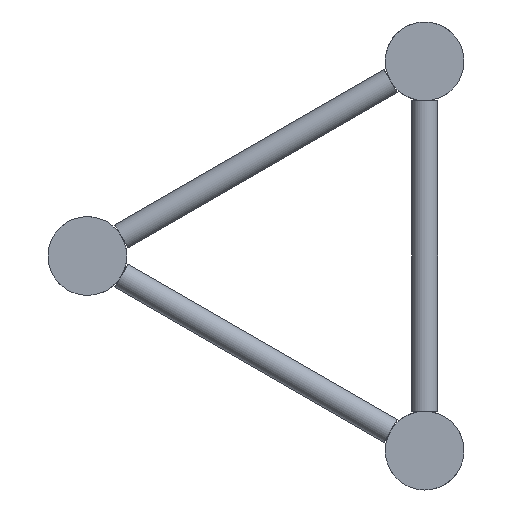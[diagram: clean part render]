
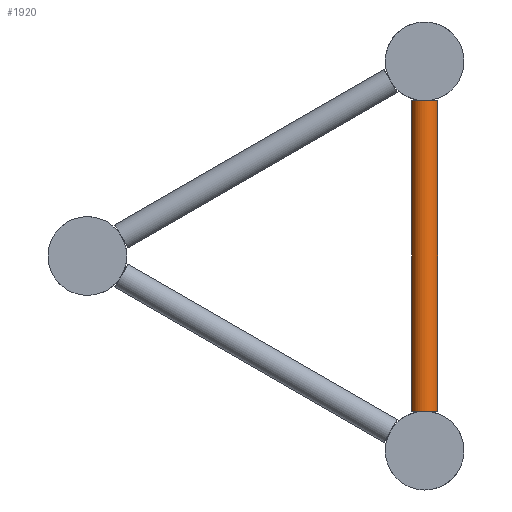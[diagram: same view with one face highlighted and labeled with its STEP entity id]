
A CAD part, left-side view. The second image highlights one B-rep face of the part: STEP entity #1920.
In plain terms, the highlighted cylindrical face has radius 8 mm (diameter 16 mm), a full revolution.
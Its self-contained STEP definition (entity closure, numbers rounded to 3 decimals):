
#270=CYLINDRICAL_SURFACE('',#2104,8.);
#345=FACE_BOUND('',#625,.T.);
#449=FACE_OUTER_BOUND('',#624,.T.);
#624=EDGE_LOOP('',(#1453,#1454));
#625=EDGE_LOOP('',(#1455,#1456));
#737=CIRCLE('',#2055,8.);
#746=CIRCLE('',#2101,8.);
#747=CIRCLE('',#2103,8.);
#748=CIRCLE('',#2105,8.);
#841=VERTEX_POINT('',#2998);
#842=VERTEX_POINT('',#2999);
#885=VERTEX_POINT('',#3195);
#886=VERTEX_POINT('',#3196);
#1049=EDGE_CURVE('',#842,#841,#737,.T.);
#1106=EDGE_CURVE('',#886,#885,#746,.T.);
#1107=EDGE_CURVE('',#885,#886,#747,.T.);
#1108=EDGE_CURVE('',#841,#842,#748,.T.);
#1453=ORIENTED_EDGE('',*,*,#1107,.T.);
#1454=ORIENTED_EDGE('',*,*,#1106,.T.);
#1455=ORIENTED_EDGE('',*,*,#1108,.T.);
#1456=ORIENTED_EDGE('',*,*,#1049,.T.);
#1920=ADVANCED_FACE('',(#449,#345),#270,.T.);
#2055=AXIS2_PLACEMENT_3D('',#3095,#2389,#2390);
#2101=AXIS2_PLACEMENT_3D('',#3301,#2501,#2502);
#2103=AXIS2_PLACEMENT_3D('',#3303,#2505,#2506);
#2104=AXIS2_PLACEMENT_3D('',#3304,#2507,#2508);
#2105=AXIS2_PLACEMENT_3D('',#3305,#2509,#2510);
#2389=DIRECTION('center_axis',(0.,0.,
-1.));
#2390=DIRECTION('ref_axis',(-1.,0.,0.));
#2501=DIRECTION('center_axis',(0.,0.,
1.));
#2502=DIRECTION('ref_axis',(-1.,0.,0.));
#2505=DIRECTION('center_axis',(0.,0.,
1.));
#2506=DIRECTION('ref_axis',(-1.,0.,0.));
#2507=DIRECTION('center_axis',(0.,0.,
1.));
#2508=DIRECTION('ref_axis',(-1.,0.,0.));
#2509=DIRECTION('center_axis',(0.,0.,
-1.));
#2510=DIRECTION('ref_axis',(-1.,0.,0.));
#2998=CARTESIAN_POINT('',(68.,0.,-24.15));
#2999=CARTESIAN_POINT('',(52.,0.,-24.15));
#3095=CARTESIAN_POINT('Origin',(60.,0.,-24.15));
#3195=CARTESIAN_POINT('',(68.,0.,-214.85));
#3196=CARTESIAN_POINT('',(52.,0.,-214.85));
#3301=CARTESIAN_POINT('Origin',(60.,0.,-214.85));
#3303=CARTESIAN_POINT('Origin',(60.,0.,-214.85));
#3304=CARTESIAN_POINT('Origin',(60.,0.,-119.5));
#3305=CARTESIAN_POINT('Origin',(60.,0.,-24.15));
